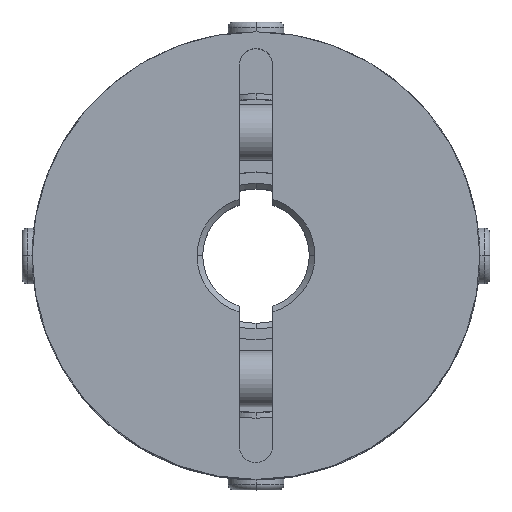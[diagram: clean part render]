
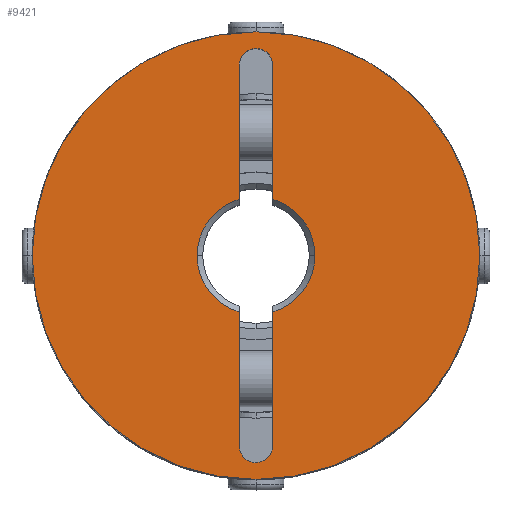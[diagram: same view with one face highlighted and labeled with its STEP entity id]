
A CAD part, top view. The second image highlights one B-rep face of the part: STEP entity #9421.
In plain terms, the highlighted planar face has unit normal (0, 0, 1).
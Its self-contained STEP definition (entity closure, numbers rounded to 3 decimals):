
#993=CARTESIAN_POINT('',(-20.0,0.,20.0));
#994=VERTEX_POINT('',#993);
#1001=CARTESIAN_POINT('',(20.0,0.0,20.0));
#1002=VERTEX_POINT('',#1001);
#1003=CARTESIAN_POINT('',(0.0,0.0,20.0));
#1004=DIRECTION('',(0.0,0.0,-1.0));
#1005=DIRECTION('',(1.0,0.0,0.0));
#1006=AXIS2_PLACEMENT_3D('',#1003,#1004,#1005);
#1007=CIRCLE('',#1006,20.0);
#1008=EDGE_CURVE('',#994,#1002,#1007,.T.);
#1319=CARTESIAN_POINT('',(-1.061,18.061,20.0));
#1320=VERTEX_POINT('',#1319);
#1336=CARTESIAN_POINT('',(1.5,17.,20.0));
#1337=VERTEX_POINT('',#1336);
#1344=CARTESIAN_POINT('',(0.,17.,20.0));
#1345=DIRECTION('',(0.0,0.0,1.));
#1346=DIRECTION('',(0.707,0.707,0.0));
#1347=AXIS2_PLACEMENT_3D('',#1344,#1345,#1346);
#1348=CIRCLE('',#1347,1.5);
#1349=EDGE_CURVE('',#1337,#1320,#1348,.T.);
#1361=CARTESIAN_POINT('',(1.061,-18.061,20.0));
#1362=VERTEX_POINT('',#1361);
#1378=CARTESIAN_POINT('',(-1.5,-17.,20.0));
#1379=VERTEX_POINT('',#1378);
#1386=CARTESIAN_POINT('',(0.0,-17.,20.0));
#1387=DIRECTION('',(0.0,0.0,1.0));
#1388=DIRECTION('',(-0.707,-0.707,0.0));
#1389=AXIS2_PLACEMENT_3D('',#1386,#1387,#1388);
#1390=CIRCLE('',#1389,1.5);
#1391=EDGE_CURVE('',#1379,#1362,#1390,.T.);
#1401=CARTESIAN_POINT('',(-5.263,0.,20.0));
#1402=VERTEX_POINT('',#1401);
#1409=CARTESIAN_POINT('',(-1.5,-5.044,20.0));
#1410=VERTEX_POINT('',#1409);
#1411=CARTESIAN_POINT('',(0.0,0.0,20.0));
#1412=DIRECTION('',(0.0,0.0,1.0));
#1413=DIRECTION('',(-1.0,0.0,0.0));
#1414=AXIS2_PLACEMENT_3D('',#1411,#1412,#1413);
#1415=CIRCLE('',#1414,5.263);
#1416=EDGE_CURVE('',#1402,#1410,#1415,.T.);
#1440=CARTESIAN_POINT('',(5.263,0.,20.0));
#1441=VERTEX_POINT('',#1440);
#1448=CARTESIAN_POINT('',(1.5,5.044,20.0));
#1449=VERTEX_POINT('',#1448);
#1450=CARTESIAN_POINT('',(0.0,0.0,20.0));
#1451=DIRECTION('',(0.0,0.0,1.0));
#1452=DIRECTION('',(1.0,0.0,0.0));
#1453=AXIS2_PLACEMENT_3D('',#1450,#1451,#1452);
#1454=CIRCLE('',#1453,5.263);
#1455=EDGE_CURVE('',#1441,#1449,#1454,.T.);
#9226=CARTESIAN_POINT('',(-1.5,17.,20.0));
#9227=VERTEX_POINT('',#9226);
#9234=CARTESIAN_POINT('',(-1.5,5.044,20.0));
#9235=VERTEX_POINT('',#9234);
#9236=CARTESIAN_POINT('',(-1.5,5.044,20.0));
#9237=DIRECTION('',(0.0,1.0,0.0));
#9238=VECTOR('',#9237,11.956);
#9239=LINE('',#9236,#9238);
#9240=EDGE_CURVE('',#9235,#9227,#9239,.T.);
#9315=CARTESIAN_POINT('',(1.5,17.,20.0));
#9316=DIRECTION('',(0.0,-1.0,0.0));
#9317=VECTOR('',#9316,11.956);
#9318=LINE('',#9315,#9317);
#9319=EDGE_CURVE('',#1337,#1449,#9318,.T.);
#9337=CARTESIAN_POINT('',(1.5,-5.044,20.0));
#9338=VERTEX_POINT('',#9337);
#9352=CARTESIAN_POINT('',(0.0,0.0,20.0));
#9353=DIRECTION('',(0.0,0.0,1.0));
#9354=DIRECTION('',(1.0,0.0,0.0));
#9355=AXIS2_PLACEMENT_3D('',#9352,#9353,#9354);
#9356=CIRCLE('',#9355,5.263);
#9357=EDGE_CURVE('',#9338,#1441,#9356,.T.);
#9362=CARTESIAN_POINT('',(1.818,0.,20.0));
#9363=DIRECTION('',(0.0,0.0,1.0));
#9364=DIRECTION('',(1.0,0.0,0.0));
#9365=AXIS2_PLACEMENT_3D('',#9362,#9363,#9364);
#9366=PLANE('',#9365);
#9367=CARTESIAN_POINT('',(0.0,0.0,20.0));
#9368=DIRECTION('',(0.0,0.0,-1.0));
#9369=DIRECTION('',(1.0,0.0,0.0));
#9370=AXIS2_PLACEMENT_3D('',#9367,#9368,#9369);
#9371=CIRCLE('',#9370,20.0);
#9372=EDGE_CURVE('',#1002,#994,#9371,.T.);
#9373=ORIENTED_EDGE('',*,*,#9372,.F.);
#9374=ORIENTED_EDGE('',*,*,#1008,.F.);
#9375=EDGE_LOOP('',(#9373,#9374));
#9376=FACE_OUTER_BOUND('',#9375,.T.);
#9377=ORIENTED_EDGE('',*,*,#9357,.F.);
#9378=CARTESIAN_POINT('',(1.5,-17.,20.0));
#9379=VERTEX_POINT('',#9378);
#9380=CARTESIAN_POINT('',(1.5,-5.044,20.0));
#9381=DIRECTION('',(0.0,-1.0,0.0));
#9382=VECTOR('',#9381,11.956);
#9383=LINE('',#9380,#9382);
#9384=EDGE_CURVE('',#9338,#9379,#9383,.T.);
#9385=ORIENTED_EDGE('',*,*,#9384,.T.);
#9386=CARTESIAN_POINT('',(0.0,-17.,20.0));
#9387=DIRECTION('',(0.0,0.0,1.0));
#9388=DIRECTION('',(-0.707,-0.707,0.0));
#9389=AXIS2_PLACEMENT_3D('',#9386,#9387,#9388);
#9390=CIRCLE('',#9389,1.5);
#9391=EDGE_CURVE('',#1362,#9379,#9390,.T.);
#9392=ORIENTED_EDGE('',*,*,#9391,.F.);
#9393=ORIENTED_EDGE('',*,*,#1391,.F.);
#9394=CARTESIAN_POINT('',(-1.5,-17.,20.0));
#9395=DIRECTION('',(0.0,1.0,0.0));
#9396=VECTOR('',#9395,11.956);
#9397=LINE('',#9394,#9396);
#9398=EDGE_CURVE('',#1379,#1410,#9397,.T.);
#9399=ORIENTED_EDGE('',*,*,#9398,.T.);
#9400=ORIENTED_EDGE('',*,*,#1416,.F.);
#9401=CARTESIAN_POINT('',(0.0,0.0,20.0));
#9402=DIRECTION('',(0.0,0.0,1.0));
#9403=DIRECTION('',(-1.0,0.0,0.0));
#9404=AXIS2_PLACEMENT_3D('',#9401,#9402,#9403);
#9405=CIRCLE('',#9404,5.263);
#9406=EDGE_CURVE('',#9235,#1402,#9405,.T.);
#9407=ORIENTED_EDGE('',*,*,#9406,.F.);
#9408=ORIENTED_EDGE('',*,*,#9240,.T.);
#9409=CARTESIAN_POINT('',(0.,17.,20.0));
#9410=DIRECTION('',(0.0,0.0,1.));
#9411=DIRECTION('',(0.707,0.707,0.0));
#9412=AXIS2_PLACEMENT_3D('',#9409,#9410,#9411);
#9413=CIRCLE('',#9412,1.5);
#9414=EDGE_CURVE('',#1320,#9227,#9413,.T.);
#9415=ORIENTED_EDGE('',*,*,#9414,.F.);
#9416=ORIENTED_EDGE('',*,*,#1349,.F.);
#9417=ORIENTED_EDGE('',*,*,#9319,.T.);
#9418=ORIENTED_EDGE('',*,*,#1455,.F.);
#9419=EDGE_LOOP('',(#9377,#9385,#9392,#9393,#9399,#9400,#9407,#9408,#9415,#9416,#9417,#9418));
#9420=FACE_BOUND('',#9419,.T.);
#9421=ADVANCED_FACE('',(#9376,#9420),#9366,.T.);
